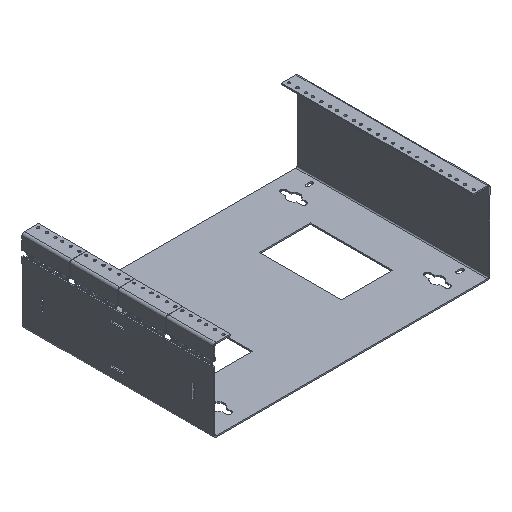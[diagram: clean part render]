
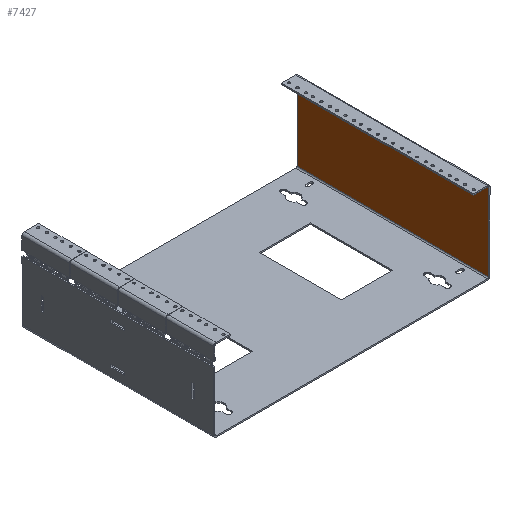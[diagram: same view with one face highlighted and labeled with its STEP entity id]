
A CAD part, isometric view. The second image highlights one B-rep face of the part: STEP entity #7427.
In plain terms, the highlighted planar face has unit normal (-1, 0, 0).
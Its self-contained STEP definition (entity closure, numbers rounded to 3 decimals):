
#45 = VERTEX_POINT ( 'NONE', #621 ) ;
#75 = CARTESIAN_POINT ( 'NONE',  ( 254., -177.8, 145.44 ) ) ;
#91 = VERTEX_POINT ( 'NONE', #642 ) ;
#193 = VERTEX_POINT ( 'NONE', #476 ) ;
#294 = VERTEX_POINT ( 'NONE', #75 ) ;
#476 = CARTESIAN_POINT ( 'NONE',  ( 254., 177.8, 145.44 ) ) ;
#621 = CARTESIAN_POINT ( 'NONE',  ( 254., 177.8, 2.032 ) ) ;
#642 = CARTESIAN_POINT ( 'NONE',  ( 254., -177.8, 2.032 ) ) ;
#919 = LINE ( 'NONE', #2891, #989 ) ;
#989 = VECTOR ( 'NONE', #2890, 1000. ) ;
#1140 = ORIENTED_EDGE ( 'NONE', *, *, #4062, .F. ) ;
#1341 = ORIENTED_EDGE ( 'NONE', *, *, #3649, .F. ) ;
#1397 = ORIENTED_EDGE ( 'NONE', *, *, #3758, .F. ) ;
#1447 = ORIENTED_EDGE ( 'NONE', *, *, #3943, .F. ) ;
#2113 = CARTESIAN_POINT ( 'NONE',  ( 254., -177.8, 0. ) ) ;
#2282 = DIRECTION ( 'NONE',  ( 0., 0., -1. ) ) ;
#2341 = VECTOR ( 'NONE', #3103, 1000. ) ;
#2384 = LINE ( 'NONE', #3072, #2341 ) ;
#2712 = CARTESIAN_POINT ( 'NONE',  ( 254., -177.8, 2.032 ) ) ;
#2890 = DIRECTION ( 'NONE',  ( 0., -1., 0. ) ) ;
#2891 = CARTESIAN_POINT ( 'NONE',  ( 254., 177.8, 145.44 ) ) ;
#3072 = CARTESIAN_POINT ( 'NONE',  ( 254., 177.8, 149.936 ) ) ;
#3103 = DIRECTION ( 'NONE',  ( 0., 0., 1. ) ) ;
#3580 = DIRECTION ( 'NONE',  ( 0., 1., 0. ) ) ;
#3649 = EDGE_CURVE ( 'NONE', #294, #91, #5340, .T. ) ;
#3758 = EDGE_CURVE ( 'NONE', #45, #193, #2384, .T. ) ;
#3943 = EDGE_CURVE ( 'NONE', #193, #294, #919, .T. ) ;
#4062 = EDGE_CURVE ( 'NONE', #91, #45, #7499, .T. ) ;
#4406 = AXIS2_PLACEMENT_3D ( 'NONE', #5983, #5539, #5620 ) ;
#4555 = EDGE_LOOP ( 'NONE', ( #1341, #1447, #1397, #1140 ) ) ;
#5327 = VECTOR ( 'NONE', #2282, 1000. ) ;
#5340 = LINE ( 'NONE', #2113, #5327 ) ;
#5532 = PLANE ( 'NONE',  #4406 ) ;
#5539 = DIRECTION ( 'NONE',  ( -1., 0., 0. ) ) ;
#5620 = DIRECTION ( 'NONE',  ( 0., 0., 1. ) ) ;
#5983 = CARTESIAN_POINT ( 'NONE',  ( 254., -177.8, 149.936 ) ) ;
#7427 = ADVANCED_FACE ( 'NONE', ( #8116 ), #5532, .T. ) ;
#7499 = LINE ( 'NONE', #2712, #7510 ) ;
#7510 = VECTOR ( 'NONE', #3580, 1000. ) ;
#8116 = FACE_OUTER_BOUND ( 'NONE', #4555, .T. ) ;
